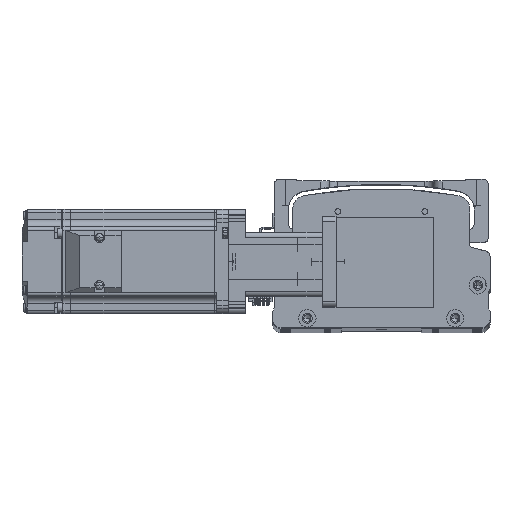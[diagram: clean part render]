
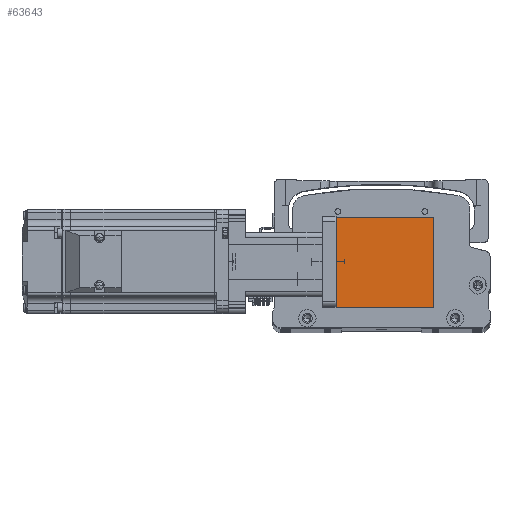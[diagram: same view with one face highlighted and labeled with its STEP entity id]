
A CAD part, top view. The second image highlights one B-rep face of the part: STEP entity #63643.
In plain terms, the highlighted planar face has unit normal (0, 0, 1) as drawn and (-1, 0, 0) by its records, which use the part's own axes.
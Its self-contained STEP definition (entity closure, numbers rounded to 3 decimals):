
#3064 = DIRECTION ( 'NONE',  ( 0., 0., -1. ) ) ;
#3913 = CARTESIAN_POINT ( 'NONE',  ( -31.5, 26., 56. ) ) ;
#4048 = CARTESIAN_POINT ( 'NONE',  ( -31.5, -26., 56. ) ) ;
#6032 = LINE ( 'NONE', #3913, #32159 ) ;
#6295 = DIRECTION ( 'NONE',  ( 1., 0., 0. ) ) ;
#8557 = VERTEX_POINT ( 'NONE', #50399 ) ;
#12228 = VERTEX_POINT ( 'NONE', #28303 ) ;
#12605 = EDGE_CURVE ( 'NONE', #37051, #12228, #35121, .T. ) ;
#13576 = DIRECTION ( 'NONE',  ( 0., 0., -1. ) ) ;
#14081 = EDGE_LOOP ( 'NONE', ( #41885, #60654, #25080, #14959 ) ) ;
#14959 = ORIENTED_EDGE ( 'NONE', *, *, #51390, .T. ) ;
#16055 = AXIS2_PLACEMENT_3D ( 'NONE', #20855, #6295, #40721 ) ;
#16356 = CARTESIAN_POINT ( 'NONE',  ( -31.5, 26., 0. ) ) ;
#16585 = CARTESIAN_POINT ( 'NONE',  ( -31.5, -26., 56. ) ) ;
#18853 = DIRECTION ( 'NONE',  ( 0., -1., 0. ) ) ;
#20491 = FACE_OUTER_BOUND ( 'NONE', #14081, .T. ) ;
#20855 = CARTESIAN_POINT ( 'NONE',  ( -31.5, -26., 56. ) ) ;
#21966 = VECTOR ( 'NONE', #3064, 1000. ) ;
#22630 = CARTESIAN_POINT ( 'NONE',  ( -31.5, -26., 56. ) ) ;
#25080 = ORIENTED_EDGE ( 'NONE', *, *, #27953, .F. ) ;
#27902 = VECTOR ( 'NONE', #18853, 1000. ) ;
#27953 = EDGE_CURVE ( 'NONE', #8557, #37051, #41016, .T. ) ;
#28303 = CARTESIAN_POINT ( 'NONE',  ( -31.5, -26., 0. ) ) ;
#29029 = LINE ( 'NONE', #60677, #55190 ) ;
#31272 = DIRECTION ( 'NONE',  ( 0., -1., 0. ) ) ;
#32159 = VECTOR ( 'NONE', #13576, 1000. ) ;
#35121 = LINE ( 'NONE', #22630, #21966 ) ;
#35762 = PLANE ( 'NONE',  #16055 ) ;
#37051 = VERTEX_POINT ( 'NONE', #16585 ) ;
#40721 = DIRECTION ( 'NONE',  ( 0., 0., -1. ) ) ;
#41016 = LINE ( 'NONE', #4048, #27902 ) ;
#41885 = ORIENTED_EDGE ( 'NONE', *, *, #43889, .T. ) ;
#43889 = EDGE_CURVE ( 'NONE', #50125, #12228, #29029, .T. ) ;
#50125 = VERTEX_POINT ( 'NONE', #16356 ) ;
#50399 = CARTESIAN_POINT ( 'NONE',  ( -31.5, 26., 56. ) ) ;
#51390 = EDGE_CURVE ( 'NONE', #8557, #50125, #6032, .T. ) ;
#55190 = VECTOR ( 'NONE', #31272, 1000. ) ;
#60654 = ORIENTED_EDGE ( 'NONE', *, *, #12605, .F. ) ;
#60677 = CARTESIAN_POINT ( 'NONE',  ( -31.5, -26., 0. ) ) ;
#63643 = ADVANCED_FACE ( 'NONE', ( #20491 ), #35762, .F. ) ;
